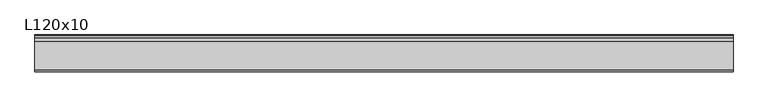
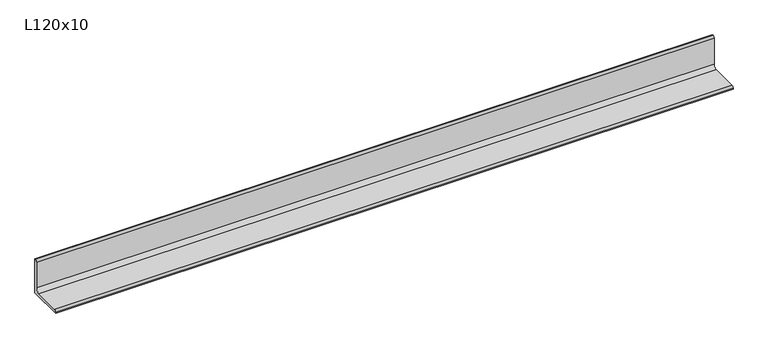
"""IFC4 building model written with IfcOpenShell, lengths in millimetres: beam geometry, L ali uguali : L120x10."""

from ifc_helpers import new_model, si_unit, point, frame, frame_2d, origin, place, context, project, spatial, polyline, circle_curve, trimmed, segment, composite_curve, outline, extrude, source, transform, mapped, element, save


def l120x10_4fa2ce1e(model_context):
    return source(origin(), model_context, "Body", "SweptSolid", [
        extrude(outline(composite_curve([segment(polyline([(41.2, -41.2), (-108.8, -41.2), (-108.8, -37.2)]), True, "CONTINUOUS"), segment(trimmed(circle_curve(frame_2d((-100.8, -37.2)), 8.0), [point((-108.8, -37.2))], [point((-100.8, -29.2))], False, "CARTESIAN"), True, "CONTINUOUS"), segment(polyline([(-100.8, -29.2), (13.2, -29.2)]), True, "CONTINUOUS"), segment(trimmed(circle_curve(frame_2d((13.2, -13.2)), 16.0), [point((13.2, -29.2))], [point((29.2, -13.2))], True, "CARTESIAN"), True, "CONTINUOUS"), segment(polyline([(29.2, -13.2), (29.2, 100.8)]), True, "CONTINUOUS"), segment(trimmed(circle_curve(frame_2d((37.2, 100.8)), 8.0), [point((29.2, 100.8))], [point((37.2, 108.8))], False, "CARTESIAN"), True, "CONTINUOUS"), segment(polyline([(37.2, 108.8), (41.2, 108.8), (41.2, -41.2)]), True, "CONTINUOUS")], self_intersect=False)), frame((-1509.5, 0.0, 0.0), z_axis=(1.0, 0.0, 0.0), x_axis=(0.0, 1.0, 0.0)), (0.0, 0.0, 1.0), 2845.2),
    ])


if __name__ == "__main__":
    model = new_model("IFC4")
    model_context = context("Model", 3, world=origin())
    ifc_project = project(units=[si_unit("LENGTHUNIT", "METRE", prefix="MILLI")], contexts=[model_context])
    site = spatial("IfcSite", under=ifc_project)
    building = spatial("IfcBuilding", under=site)
    placement = place(None, origin())
    l120x10_shape = l120x10_4fa2ce1e(model_context)
    element("IfcBeam", 1, ObjectType="L ali uguali : L120x10", at=placement, inside=building, context=model_context, shape_type="MappedRepresentation", body=[
        mapped(l120x10_shape, transform((0.0, 0.0, 0.0), x_axis=(1.0, 0.0, 0.0), y_axis=(0.0, 1.0, 0.0), z_axis=(0.0, 0.0, 1.0))),
    ])
    save(model, "model.ifc")
